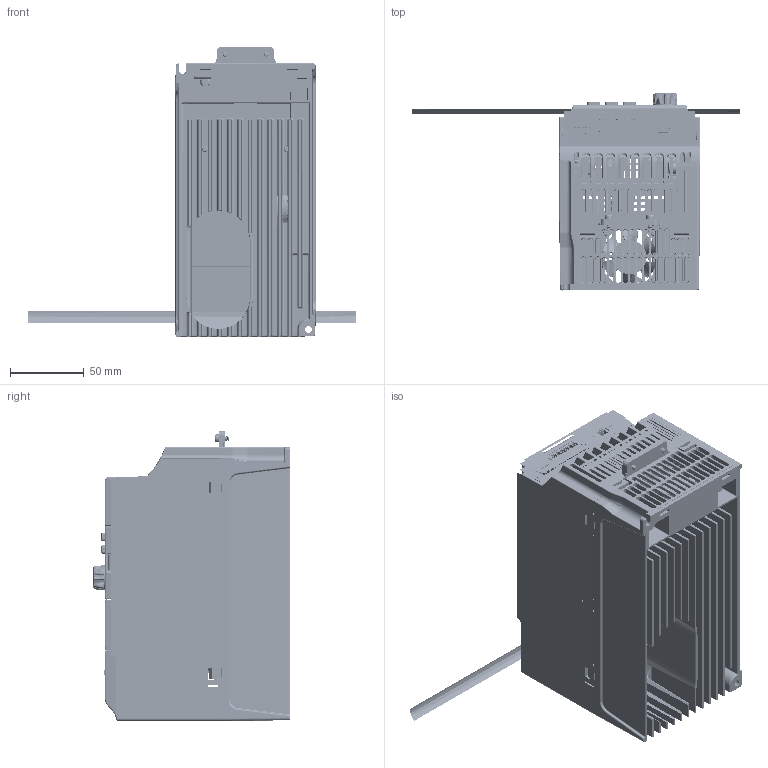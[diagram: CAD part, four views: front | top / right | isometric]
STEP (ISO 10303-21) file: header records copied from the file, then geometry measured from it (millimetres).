
FILE_DESCRIPTION((''),'2;1');
FILE_NAME('00-2011MINI_C_ASM_115_ASM_1_ASM','2013-03-08T',('liw2xi'),(''),'PRO/ENGINEER BY PARAMETRIC TECHNOLOGY CORPORATION, 2009380','PRO/ENGINEER BY PARAMETRIC TECHNOLOGY CORPORATION, 2009380','');
FILE_SCHEMA(('STRUCTURAL_ANALYSIS_DESIGN'));
Length unit declared in the file: millimetre
Products named in the file (58): RA_MINI_C_179_1; SUPPORT2_16_1; R911330077_BLOCK_14_1; MANIFOLD_SOLID_BREP_100895_1; MANIFOLD_SOLID_BREP_101250_1; _R911330077-KLOTZ_11_1; R911330077-KLOTZ_11_ASM_1_ASM; R911294163_ISO14583-M3X10_12_1; R911330077_ASM_15_ASM_1_ASM; 3PH_MB_1K5_ASM_35_ASM_1_ASM; LK_YDP04_38_1; 3PH_HILFSPART_9_1; R911323521_17_1; LK_YDP04_ASM_30_ASM_1_ASM; R911330315_18_1; MANIFOLD_SOLID_BREP_663225_1; MANIFOLD_SOLID_BREP_663388_1; EMC_FILTER_3PHB_34_ASM_1_ASM; EFB0412VHD_8_1; PL_MINI_C_177_1; 01-IO_COVER_66_1; LK_YCP06-PLATINE_16_1; R911330262_14_1; R911276876_90_1; DB9_SERIES_PORT_12_1; PRT0001_12_1; R911330080_12_1; CPU_CONNECTOR_3P_12_1; CPU_CONNECTOR-14P_12_1; CONNECTOR_12_1; CONNECTOR_TYCO-331_12_1; LK_YCP06_ASM_51_ASM_1_ASM; 01-IOBACK_CASE_137_1; LD_KCCT_M3X10_14_1; 01_DISPLAYCASE_57_1; DISPLAY_PCB1_15_1; R911329772_12_1; R911330025_12_1; LED_23_1; CONNECTOR2_12_1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
Assembly tree (89 placements, depth 5):
  00-2011MINI_C_ASM_115_ASM_1_ASM
    RA_MINI_C_179_1
    SUPPORT2_16_1  x2
    3PH_MB_1K5_ASM_35_ASM_1_ASM
      R911330077_ASM_15_ASM_1_ASM
        R911330077_BLOCK_14_1
        R911330077-KLOTZ_11_ASM_1_ASM  x8
          MANIFOLD_SOLID_BREP_100895_1
          MANIFOLD_SOLID_BREP_101250_1
          _R911330077-KLOTZ_11_1
        R911294163_ISO14583-M3X10_12_1  x8
    LK_YDP04_ASM_30_ASM_1_ASM
      LK_YDP04_38_1
      3PH_HILFSPART_9_1
      R911323521_17_1
    R911330315_18_1
    EMC_FILTER_3PHB_34_ASM_1_ASM  x2
      MANIFOLD_SOLID_BREP_663225_1
      MANIFOLD_SOLID_BREP_663388_1
    EFB0412VHD_8_1
    PL_MINI_C_177_1
    01-IOCASE_ASM_82_ASM_1_ASM
      01-IO_COVER_66_1
      LK_YCP06_ASM_51_ASM_1_ASM
        LK_YCP06-PLATINE_16_1
        R911330262_14_1
        R911276876_90_1
        DB9_SERIES_PORT_12_1
        PRT0001_12_1
        R911330080_12_1
        CPU_CONNECTOR_3P_12_1
        CPU_CONNECTOR-14P_12_1
        CONNECTOR_12_1
        CONNECTOR_TYCO-331_12_1
      01-IOBACK_CASE_137_1
      LD_KCCT_M3X10_14_1  x2
      02-DISPLAY-CASE_ASM_47_ASM_1_ASM
        01_DISPLAYCASE_57_1
        DISPLAY_PCB_ASM_22_ASM_1_ASM
          DISPLAY_PCB1_15_1
          R911329772_12_1  x6
          R911330025_12_1
          LED_23_1
          CONNECTOR2_12_1
          CONNECTOR_TYCO-331_12_1
        BACK_CASE1_53_1
        R911330333_FOLIE_34_1
        BUUTTON_25_1
        XUAN_NIU_30_1
        LD_KCCT_M3X10_14_1  x2
        LABEL_15X50_7_1
      DB272710_16_1
      LABEL_15X50_7_1
    PL_MINIC_FENGSHANGGAI_60_1
    LDZHJ_SZCYZT_M4X10_11_1  x4
    DB165290_10_1
    LDZHJ_SZCYZT_M4X8_11_1
    LOGO_REXROTH_17_1
    LDZHJ_SZCYZT_M3X8_4_1  x2
    YLF-1PH_5_1
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Bounding box: 222.29 x 133.95 x 196 mm (x, y, z)
Volume: 511352.6 mm3; surface area: 578726.7 mm2
Topology: 86 solids, 142 shells, 13071 faces, 35484 edges, 22941 vertices
Faces by surface type: plane 6957, cylinder 3411, bspline 919, torus 856, cone 504, sphere 238, extrusion 172, revolution 14
Entity records: 425643 total; most frequent: CARTESIAN_POINT 145081, ORIENTED_EDGE 59911, DIRECTION 55264, EDGE_CURVE 30375, VERTEX_POINT 19794, VECTOR 19014, LINE 18850, AXIS2_PLACEMENT_3D 18118
